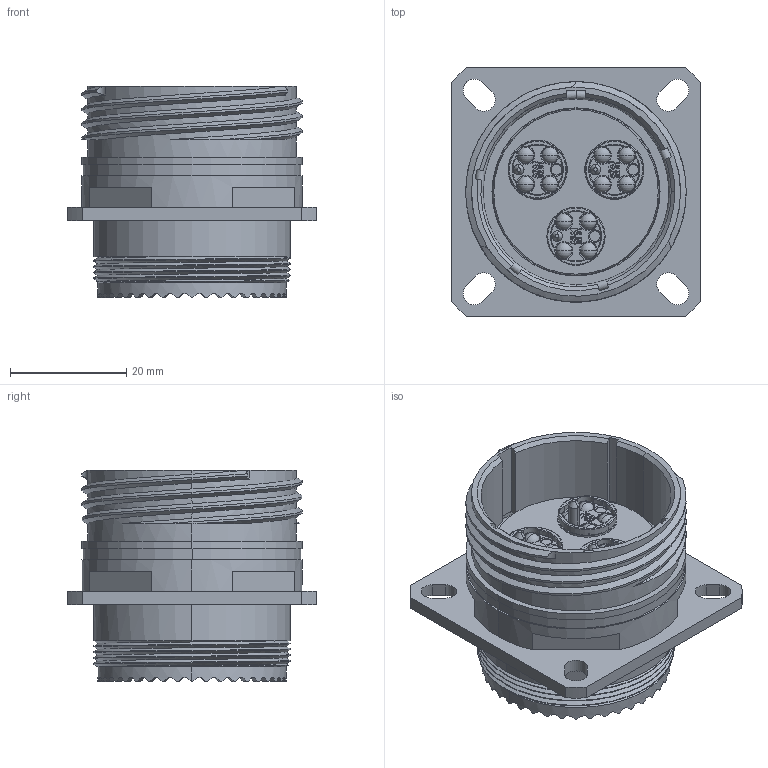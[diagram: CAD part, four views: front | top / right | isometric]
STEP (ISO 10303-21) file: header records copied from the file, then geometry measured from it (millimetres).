
FILE_DESCRIPTION (( 'STEP AP214' ), '1' );
FILE_NAME ('Q38EB-RFX-23XX-X-RA.STEP', '2025-12-15T16:04:33', ( '' ), ( '' ), 'SwSTEP 2.0', 'SolidWorks 2024', '' );
FILE_SCHEMA (( 'AUTOMOTIVE_DESIGN' ));
Length unit declared in the file: millimetre
Products named in the file (1): Q38EB-RFX-23XX-X-RA
Bounding box: 42.88 x 42.88 x 36.32 mm (x, y, z)
Volume: 25153.3 mm3; surface area: 12358.2 mm2
Topology: 2 solids, 2 shells, 875 faces, 2282 edges, 1498 vertices
Faces by surface type: plane 490, cylinder 191, bspline 98, cone 47, torus 25, sphere 24
Entity records: 33528 total; most frequent: CARTESIAN_POINT 12751, ORIENTED_EDGE 4564, DIRECTION 4040, EDGE_CURVE 2282, VERTEX_POINT 1498, AXIS2_PLACEMENT_3D 1438, VECTOR 1164, LINE 1164
